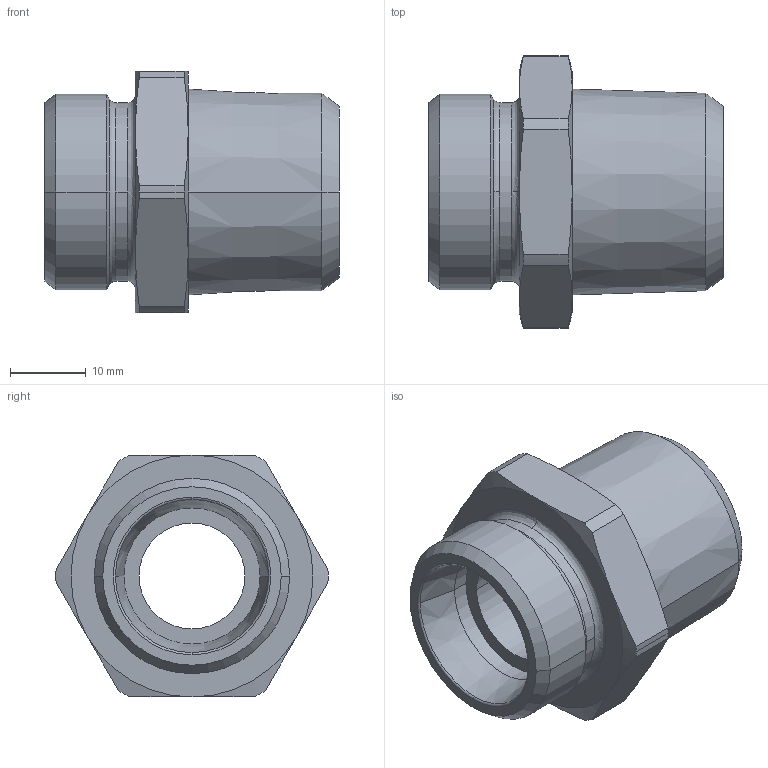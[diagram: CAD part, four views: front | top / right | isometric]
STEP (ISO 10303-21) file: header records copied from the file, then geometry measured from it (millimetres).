
FILE_DESCRIPTION((''),'2;1');
FILE_NAME('101834.stp','2007-10-30T16:12:28',(''),(''),'AutoCAD STEP 2000i','AutoCAD 2000i',', , ');
FILE_SCHEMA(('CONFIG_CONTROL_DESIGN'));
Length unit declared in the file: millimetre
Products named in the file (2): 101834.0; CHIAVE SMUSSATA#0
Assembly tree (1 placements, depth 2):
  101834.0
    CHIAVE SMUSSATA#0
Bounding box: 39 x 36 x 32 mm (x, y, z)
Volume: 15978 mm3; surface area: 6410 mm2
Topology: 1 solids, 1 shells, 59 faces, 143 edges, 89 vertices
Faces by surface type: cone 24, cylinder 16, plane 11, bspline 6, torus 2
Entity records: 2079 total; most frequent: CARTESIAN_POINT 605, DIRECTION 314, ORIENTED_EDGE 286, EDGE_CURVE 143, AXIS2_PLACEMENT_3D 140, VERTEX_POINT 89, CIRCLE 85, EDGE_LOOP 64
